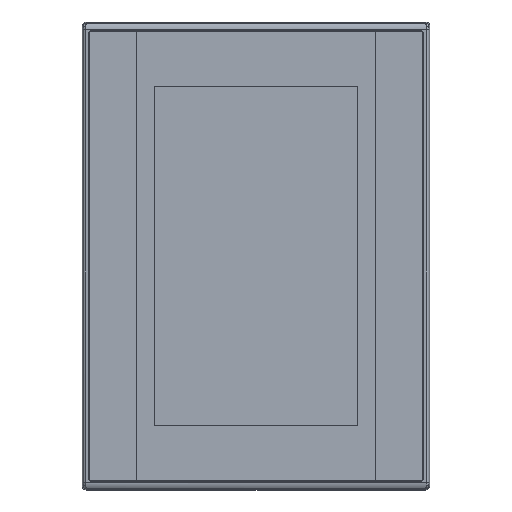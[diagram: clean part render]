
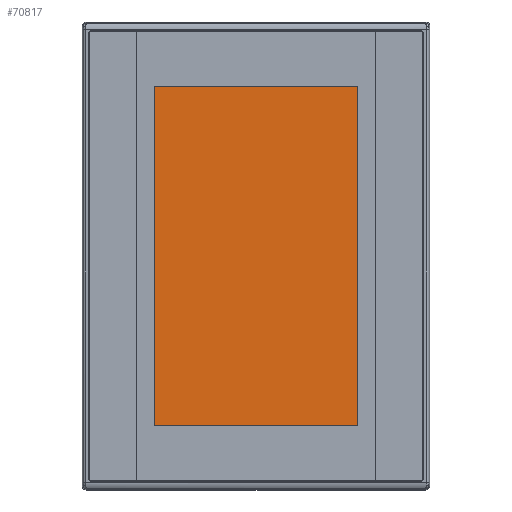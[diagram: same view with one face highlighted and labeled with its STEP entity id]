
A CAD part, top view. The second image highlights one B-rep face of the part: STEP entity #70817.
In plain terms, the highlighted planar face has unit normal (0, 0, 1).
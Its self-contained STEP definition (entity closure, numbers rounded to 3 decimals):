
#70706=CARTESIAN_POINT('',(45.72,-76.2,5.928));
#70707=VERTEX_POINT('',#70706);
#70714=CARTESIAN_POINT('',(-45.72,-76.2,5.928));
#70715=VERTEX_POINT('',#70714);
#70716=CARTESIAN_POINT('',(45.72,-76.2,5.928));
#70717=DIRECTION('',(-1.,0.,0.));
#70718=VECTOR('',#70717,91.44);
#70719=LINE('',#70716,#70718);
#70720=EDGE_CURVE('',#70707,#70715,#70719,.T.);
#70744=CARTESIAN_POINT('',(45.72,76.2,5.928));
#70745=VERTEX_POINT('',#70744);
#70746=CARTESIAN_POINT('',(45.72,76.2,5.928));
#70747=DIRECTION('',(0.,-1.,0.));
#70748=VECTOR('',#70747,152.4);
#70749=LINE('',#70746,#70748);
#70750=EDGE_CURVE('',#70745,#70707,#70749,.T.);
#70794=CARTESIAN_POINT('',(75.081,101.211,5.928));
#70795=DIRECTION('',(-1.,0.,0.));
#70796=DIRECTION('',(0.,0.,1.));
#70797=AXIS2_PLACEMENT_3D('',#70794,#70796,#70795);
#70798=PLANE('',#70797);
#70799=ORIENTED_EDGE('',*,*,#70720,.F.);
#70800=ORIENTED_EDGE('',*,*,#70750,.F.);
#70801=CARTESIAN_POINT('',(-45.72,76.2,5.928));
#70802=VERTEX_POINT('',#70801);
#70803=CARTESIAN_POINT('',(45.72,76.2,5.928));
#70804=DIRECTION('',(-1.,0.,0.));
#70805=VECTOR('',#70804,91.44);
#70806=LINE('',#70803,#70805);
#70807=EDGE_CURVE('',#70745,#70802,#70806,.T.);
#70808=ORIENTED_EDGE('',*,*,#70807,.T.);
#70809=CARTESIAN_POINT('',(-45.72,76.2,5.928));
#70810=DIRECTION('',(0.,-1.,0.));
#70811=VECTOR('',#70810,152.4);
#70812=LINE('',#70809,#70811);
#70813=EDGE_CURVE('',#70802,#70715,#70812,.T.);
#70814=ORIENTED_EDGE('',*,*,#70813,.T.);
#70815=EDGE_LOOP('',(#70799,#70800,#70808,#70814));
#70816=FACE_OUTER_BOUND('',#70815,.T.);
#70817=ADVANCED_FACE('',(#70816),#70798,.T.);
